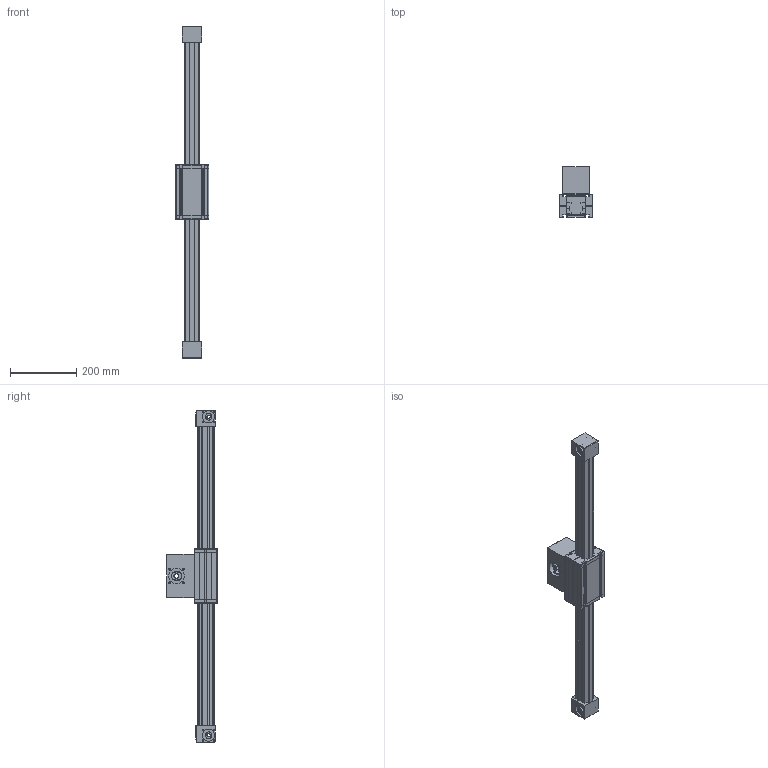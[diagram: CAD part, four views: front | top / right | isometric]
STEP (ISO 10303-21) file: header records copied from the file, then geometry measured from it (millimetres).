
FILE_DESCRIPTION (( 'STEP AP214' ), '1' );
FILE_NAME ('ELZT40.STEP', '2022-07-19T13:04:15', ( '' ), ( '' ), 'SwSTEP 2.0', 'SolidWorks 2020', '' );
FILE_SCHEMA (( 'AUTOMOTIVE_DESIGN' ));
Length unit declared in the file: millimetre
Products named in the file (6): timing belt reverse unit^ELZT40_coupling claw pos.2; timing belt reverse unit carriage^ELZT40_coupling claw pos.1; timing belt reverse unit^ELZT40_coupling claw pos.1; carriage^ELZT40_carriage version 0; profile^ELZT40_2x guide rods; ELZT40
Assembly tree (6 placements, depth 2):
  ELZT40
    profile^ELZT40_2x guide rods
    carriage^ELZT40_carriage version 0  x2
    timing belt reverse unit carriage^ELZT40_coupling claw pos.1
    timing belt reverse unit^ELZT40_coupling claw pos.1
    timing belt reverse unit^ELZT40_coupling claw pos.2
Bounding box: 100 x 153 x 1000 mm (x, y, z)
Volume: 3300153 mm3; surface area: 569722.9 mm2
Topology: 16 solids, 16 shells, 641 faces, 1674 edges, 1062 vertices
Faces by surface type: plane 362, cylinder 201, cone 58, torus 16, sphere 4
Entity records: 14269 total; most frequent: DIRECTION 2459, CARTESIAN_POINT 2446, ORIENTED_EDGE 2318, EDGE_CURVE 1159, AXIS2_PLACEMENT_3D 841, VECTOR 777, LINE 777, VERTEX_POINT 748
